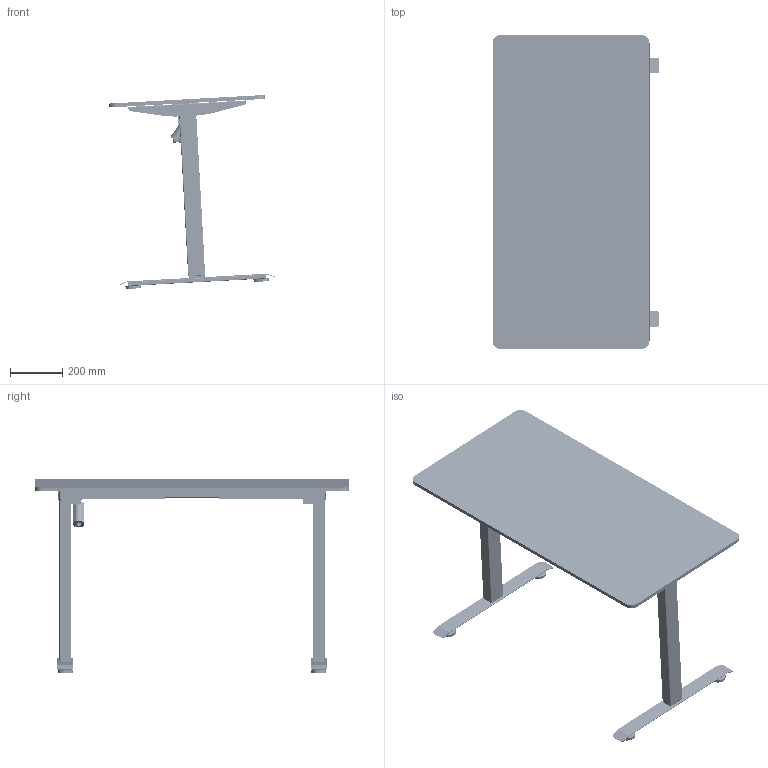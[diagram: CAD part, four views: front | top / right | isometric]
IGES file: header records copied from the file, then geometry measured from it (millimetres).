
Start section: SolidWorks IGES file using analytic representation for surfaces
Bounding box: 637.95 x 1200 x 742.03 mm (x, y, z)
Surface area: 3609679.2 mm2 (no closed solid volume)
Topology: 0 solids, 0 shells, 7604 faces, 83789 edges, 83846 vertices
Faces by surface type: bspline 4049, revolution 3555
